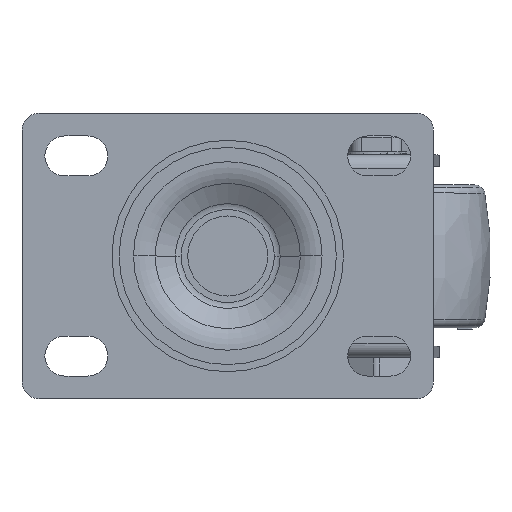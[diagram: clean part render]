
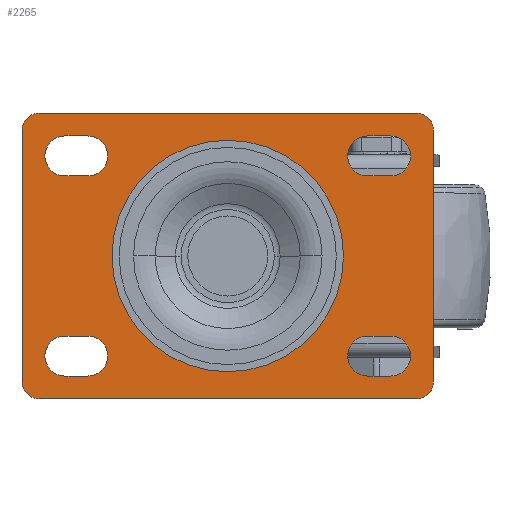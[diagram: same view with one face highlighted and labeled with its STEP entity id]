
A CAD part, top view. The second image highlights one B-rep face of the part: STEP entity #2265.
In plain terms, the highlighted planar face has unit normal (0, 0, 1).
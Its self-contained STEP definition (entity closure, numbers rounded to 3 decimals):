
#2265=ADVANCED_FACE('',(#3790,#3791,#3792,#3793,#3794,#3795),#3286,.F.);
#3286=PLANE('',#18893);
#3790=FACE_BOUND('',#3938,.T.);
#3791=FACE_BOUND('',#3939,.T.);
#3792=FACE_BOUND('',#3940,.T.);
#3793=FACE_BOUND('',#3941,.T.);
#3794=FACE_BOUND('',#3942,.T.);
#3795=FACE_BOUND('',#3943,.T.);
#3938=EDGE_LOOP('',(#7434,#7435,#7436,#7437));
#3939=EDGE_LOOP('',(#7438,#7439,#7440,#7441));
#3940=EDGE_LOOP('',(#7442,#7443,#7444,#7445));
#3941=EDGE_LOOP('',(#7446,#7447,#7448,#7449,#7450,#7451,#7452,#7453));
#3942=EDGE_LOOP('',(#7454,#7455));
#3943=EDGE_LOOP('',(#7456,#7457,#7458,#7459));
#5059=LINE('',#26012,#6226);
#5060=LINE('',#26017,#6227);
#5061=LINE('',#26023,#6228);
#5062=LINE('',#26027,#6229);
#5063=LINE('',#26028,#6230);
#5064=LINE('',#26033,#6231);
#5065=LINE('',#26036,#6232);
#5066=LINE('',#26041,#6233);
#5067=LINE('',#26045,#6234);
#5068=LINE('',#26049,#6235);
#5069=LINE('',#26059,#6236);
#5070=LINE('',#26063,#6237);
#6226=VECTOR('',#20874,1.);
#6227=VECTOR('',#20877,1.);
#6228=VECTOR('',#20882,1.);
#6229=VECTOR('',#20885,1.);
#6230=VECTOR('',#20886,1.);
#6231=VECTOR('',#20889,1.);
#6232=VECTOR('',#20892,1.);
#6233=VECTOR('',#20895,1.);
#6234=VECTOR('',#20898,1.);
#6235=VECTOR('',#20901,1.);
#6236=VECTOR('',#20910,1.);
#6237=VECTOR('',#20913,1.);
#7434=ORIENTED_EDGE('',*,*,#15058,.T.);
#7435=ORIENTED_EDGE('',*,*,#15059,.T.);
#7436=ORIENTED_EDGE('',*,*,#15060,.T.);
#7437=ORIENTED_EDGE('',*,*,#15061,.T.);
#7438=ORIENTED_EDGE('',*,*,#15062,.F.);
#7439=ORIENTED_EDGE('',*,*,#15063,.F.);
#7440=ORIENTED_EDGE('',*,*,#15064,.F.);
#7441=ORIENTED_EDGE('',*,*,#15065,.F.);
#7442=ORIENTED_EDGE('',*,*,#15066,.T.);
#7443=ORIENTED_EDGE('',*,*,#15067,.T.);
#7444=ORIENTED_EDGE('',*,*,#15068,.T.);
#7445=ORIENTED_EDGE('',*,*,#15069,.T.);
#7446=ORIENTED_EDGE('',*,*,#15070,.T.);
#7447=ORIENTED_EDGE('',*,*,#15071,.T.);
#7448=ORIENTED_EDGE('',*,*,#15072,.F.);
#7449=ORIENTED_EDGE('',*,*,#15073,.T.);
#7450=ORIENTED_EDGE('',*,*,#15074,.T.);
#7451=ORIENTED_EDGE('',*,*,#15075,.T.);
#7452=ORIENTED_EDGE('',*,*,#15076,.T.);
#7453=ORIENTED_EDGE('',*,*,#15077,.T.);
#7454=ORIENTED_EDGE('',*,*,#15078,.F.);
#7455=ORIENTED_EDGE('',*,*,#15079,.F.);
#7456=ORIENTED_EDGE('',*,*,#15080,.F.);
#7457=ORIENTED_EDGE('',*,*,#15081,.F.);
#7458=ORIENTED_EDGE('',*,*,#15082,.F.);
#7459=ORIENTED_EDGE('',*,*,#15083,.F.);
#13140=VERTEX_POINT('',#26013);
#13141=VERTEX_POINT('',#26014);
#13142=VERTEX_POINT('',#26016);
#13143=VERTEX_POINT('',#26018);
#13144=VERTEX_POINT('',#26021);
#13145=VERTEX_POINT('',#26022);
#13146=VERTEX_POINT('',#26024);
#13147=VERTEX_POINT('',#26026);
#13148=VERTEX_POINT('',#26029);
#13149=VERTEX_POINT('',#26030);
#13150=VERTEX_POINT('',#26032);
#13151=VERTEX_POINT('',#26034);
#13152=VERTEX_POINT('',#26037);
#13153=VERTEX_POINT('',#26038);
#13154=VERTEX_POINT('',#26040);
#13155=VERTEX_POINT('',#26042);
#13156=VERTEX_POINT('',#26044);
#13157=VERTEX_POINT('',#26046);
#13158=VERTEX_POINT('',#26048);
#13159=VERTEX_POINT('',#26050);
#13160=VERTEX_POINT('',#26053);
#13161=VERTEX_POINT('',#26054);
#13162=VERTEX_POINT('',#26057);
#13163=VERTEX_POINT('',#26058);
#13164=VERTEX_POINT('',#26060);
#13165=VERTEX_POINT('',#26062);
#15058=EDGE_CURVE('',#13140,#13141,#5059,.T.);
#15059=EDGE_CURVE('',#13141,#13142,#17899,.T.);
#15060=EDGE_CURVE('',#13142,#13143,#5060,.T.);
#15061=EDGE_CURVE('',#13143,#13140,#17900,.T.);
#15062=EDGE_CURVE('',#13144,#13145,#17901,.T.);
#15063=EDGE_CURVE('',#13146,#13144,#5061,.T.);
#15064=EDGE_CURVE('',#13147,#13146,#17902,.T.);
#15065=EDGE_CURVE('',#13145,#13147,#5062,.T.);
#15066=EDGE_CURVE('',#13148,#13149,#5063,.T.);
#15067=EDGE_CURVE('',#13149,#13150,#17903,.T.);
#15068=EDGE_CURVE('',#13150,#13151,#5064,.T.);
#15069=EDGE_CURVE('',#13151,#13148,#17904,.T.);
#15070=EDGE_CURVE('',#13152,#13153,#5065,.T.);
#15071=EDGE_CURVE('',#13153,#13154,#17905,.T.);
#15072=EDGE_CURVE('',#13155,#13154,#5066,.T.);
#15073=EDGE_CURVE('',#13155,#13156,#17906,.T.);
#15074=EDGE_CURVE('',#13156,#13157,#5067,.T.);
#15075=EDGE_CURVE('',#13157,#13158,#17907,.T.);
#15076=EDGE_CURVE('',#13158,#13159,#5068,.T.);
#15077=EDGE_CURVE('',#13159,#13152,#17908,.T.);
#15078=EDGE_CURVE('',#13160,#13161,#17909,.T.);
#15079=EDGE_CURVE('',#13161,#13160,#17910,.T.);
#15080=EDGE_CURVE('',#13162,#13163,#17911,.T.);
#15081=EDGE_CURVE('',#13164,#13162,#5069,.T.);
#15082=EDGE_CURVE('',#13165,#13164,#17912,.T.);
#15083=EDGE_CURVE('',#13163,#13165,#5070,.T.);
#17899=CIRCLE('',#18879,3.5);
#17900=CIRCLE('',#18880,3.5);
#17901=CIRCLE('',#18881,3.5);
#17902=CIRCLE('',#18882,3.5);
#17903=CIRCLE('',#18883,3.5);
#17904=CIRCLE('',#18884,3.5);
#17905=CIRCLE('',#18885,3.);
#17906=CIRCLE('',#18886,3.);
#17907=CIRCLE('',#18887,3.);
#17908=CIRCLE('',#18888,3.);
#17909=CIRCLE('',#18889,20.25);
#17910=CIRCLE('',#18890,20.25);
#17911=CIRCLE('',#18891,3.5);
#17912=CIRCLE('',#18892,3.5);
#18879=AXIS2_PLACEMENT_3D('',#26015,#20875,#20876);
#18880=AXIS2_PLACEMENT_3D('',#26019,#20878,#20879);
#18881=AXIS2_PLACEMENT_3D('',#26020,#20880,#20881);
#18882=AXIS2_PLACEMENT_3D('',#26025,#20883,#20884);
#18883=AXIS2_PLACEMENT_3D('',#26031,#20887,#20888);
#18884=AXIS2_PLACEMENT_3D('',#26035,#20890,#20891);
#18885=AXIS2_PLACEMENT_3D('',#26039,#20893,#20894);
#18886=AXIS2_PLACEMENT_3D('',#26043,#20896,#20897);
#18887=AXIS2_PLACEMENT_3D('',#26047,#20899,#20900);
#18888=AXIS2_PLACEMENT_3D('',#26051,#20902,#20903);
#18889=AXIS2_PLACEMENT_3D('',#26052,#20904,#20905);
#18890=AXIS2_PLACEMENT_3D('',#26055,#20906,#20907);
#18891=AXIS2_PLACEMENT_3D('',#26056,#20908,#20909);
#18892=AXIS2_PLACEMENT_3D('',#26061,#20911,#20912);
#18893=AXIS2_PLACEMENT_3D('',#26064,#20914,#20915);
#20874=DIRECTION('',(-1.,0.,0.));
#20875=DIRECTION('',(0.,0.,-1.));
#20876=DIRECTION('',(-1.,0.,0.));
#20877=DIRECTION('',(1.,0.,0.));
#20878=DIRECTION('',(0.,0.,-1.));
#20879=DIRECTION('',(-1.,0.,0.));
#20880=DIRECTION('',(0.,0.,1.));
#20881=DIRECTION('',(1.,0.,0.));
#20882=DIRECTION('',(-1.,0.,0.));
#20883=DIRECTION('',(0.,0.,1.));
#20884=DIRECTION('',(1.,0.,0.));
#20885=DIRECTION('',(1.,0.,0.));
#20886=DIRECTION('',(-1.,0.,0.));
#20887=DIRECTION('',(0.,0.,-1.));
#20888=DIRECTION('',(1.,0.,0.));
#20889=DIRECTION('',(1.,0.,0.));
#20890=DIRECTION('',(0.,0.,-1.));
#20891=DIRECTION('',(1.,0.,0.));
#20892=DIRECTION('',(0.,-1.,0.));
#20893=DIRECTION('',(0.,0.,1.));
#20894=DIRECTION('',(-1.,0.,0.));
#20895=DIRECTION('',(-1.,0.,0.));
#20896=DIRECTION('',(0.,0.,1.));
#20897=DIRECTION('',(-1.,0.,0.));
#20898=DIRECTION('',(0.,1.,0.));
#20899=DIRECTION('',(0.,0.,1.));
#20900=DIRECTION('',(-1.,0.,0.));
#20901=DIRECTION('',(-1.,0.,0.));
#20902=DIRECTION('',(0.,0.,1.));
#20903=DIRECTION('',(-1.,0.,0.));
#20904=DIRECTION('',(0.,0.,1.));
#20905=DIRECTION('',(-1.,0.,0.));
#20906=DIRECTION('',(0.,0.,1.));
#20907=DIRECTION('',(1.,0.,0.));
#20908=DIRECTION('',(0.,0.,1.));
#20909=DIRECTION('',(-1.,0.,0.));
#20910=DIRECTION('',(-1.,0.,0.));
#20911=DIRECTION('',(0.,0.,1.));
#20912=DIRECTION('',(-1.,0.,0.));
#20913=DIRECTION('',(1.,0.,0.));
#20914=DIRECTION('',(0.,0.,-1.));
#20915=DIRECTION('',(-1.,0.,0.));
#26012=CARTESIAN_POINT('',(28.5,14.,0.));
#26013=CARTESIAN_POINT('',(28.5,14.,0.));
#26014=CARTESIAN_POINT('',(24.5,14.,0.));
#26015=CARTESIAN_POINT('',(24.5,17.5,0.));
#26016=CARTESIAN_POINT('',(24.5,21.,0.));
#26017=CARTESIAN_POINT('',(24.5,21.,0.));
#26018=CARTESIAN_POINT('',(28.5,21.,0.));
#26019=CARTESIAN_POINT('',(28.5,17.5,0.));
#26020=CARTESIAN_POINT('',(-28.5,17.5,0.));
#26021=CARTESIAN_POINT('',(-28.5,21.,0.));
#26022=CARTESIAN_POINT('',(-28.5,14.,0.));
#26023=CARTESIAN_POINT('',(-24.5,21.,0.));
#26024=CARTESIAN_POINT('',(-24.5,21.,0.));
#26025=CARTESIAN_POINT('',(-24.5,17.5,0.));
#26026=CARTESIAN_POINT('',(-24.5,14.,0.));
#26027=CARTESIAN_POINT('',(-28.5,14.,0.));
#26028=CARTESIAN_POINT('',(-24.5,-21.,0.));
#26029=CARTESIAN_POINT('',(-24.5,-21.,0.));
#26030=CARTESIAN_POINT('',(-28.5,-21.,0.));
#26031=CARTESIAN_POINT('',(-28.5,-17.5,0.));
#26032=CARTESIAN_POINT('',(-28.5,-14.,0.));
#26033=CARTESIAN_POINT('',(-28.5,-14.,0.));
#26034=CARTESIAN_POINT('',(-24.5,-14.,0.));
#26035=CARTESIAN_POINT('',(-24.5,-17.5,0.));
#26036=CARTESIAN_POINT('',(-36.,25.5,0.));
#26037=CARTESIAN_POINT('',(-36.,22.,0.));
#26038=CARTESIAN_POINT('',(-36.,-22.,0.));
#26039=CARTESIAN_POINT('',(-33.,-22.,0.));
#26040=CARTESIAN_POINT('',(-33.,-25.,0.));
#26041=CARTESIAN_POINT('',(0.,-25.,0.));
#26042=CARTESIAN_POINT('',(33.,-25.,0.));
#26043=CARTESIAN_POINT('',(33.,-22.,0.));
#26044=CARTESIAN_POINT('',(36.,-22.,0.));
#26045=CARTESIAN_POINT('',(36.,-25.5,0.));
#26046=CARTESIAN_POINT('',(36.,22.,0.));
#26047=CARTESIAN_POINT('',(33.,22.,0.));
#26048=CARTESIAN_POINT('',(33.,25.,0.));
#26049=CARTESIAN_POINT('',(35.,25.,0.));
#26050=CARTESIAN_POINT('',(-33.,25.,0.));
#26051=CARTESIAN_POINT('',(-33.,22.,0.));
#26052=CARTESIAN_POINT('',(0.,0.,0.));
#26053=CARTESIAN_POINT('',(-20.25,0.,0.));
#26054=CARTESIAN_POINT('',(20.25,0.,0.));
#26055=CARTESIAN_POINT('',(0.,0.,0.));
#26056=CARTESIAN_POINT('',(24.5,-17.5,0.));
#26057=CARTESIAN_POINT('',(24.5,-14.,0.));
#26058=CARTESIAN_POINT('',(24.5,-21.,0.));
#26059=CARTESIAN_POINT('',(28.5,-14.,0.));
#26060=CARTESIAN_POINT('',(28.5,-14.,0.));
#26061=CARTESIAN_POINT('',(28.5,-17.5,0.));
#26062=CARTESIAN_POINT('',(28.5,-21.,0.));
#26063=CARTESIAN_POINT('',(24.5,-21.,0.));
#26064=CARTESIAN_POINT('',(0.,0.,0.));
